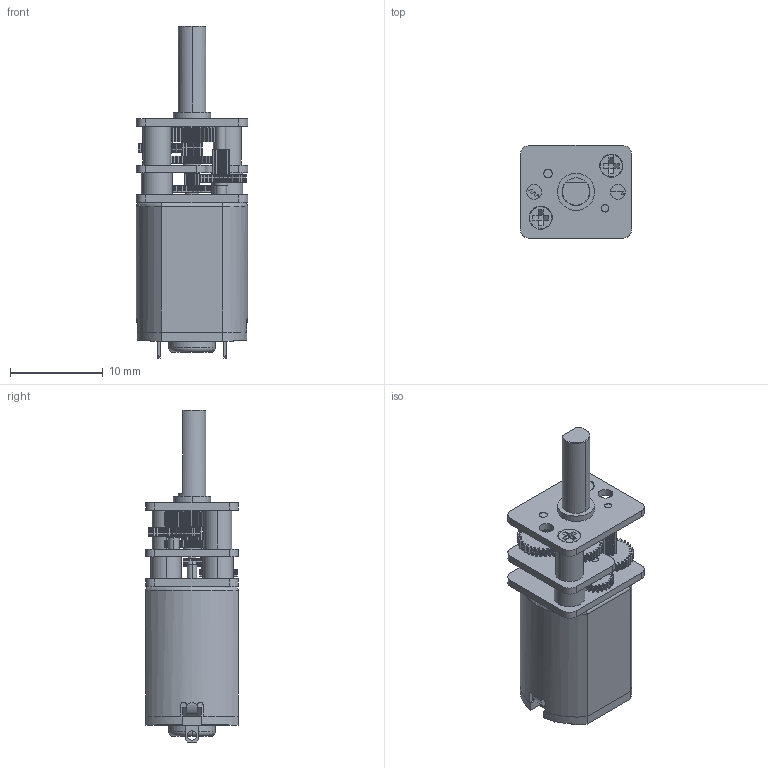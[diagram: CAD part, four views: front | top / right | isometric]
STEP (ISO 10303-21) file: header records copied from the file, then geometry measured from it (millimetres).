
FILE_DESCRIPTION (( 'STEP AP214' ), '1' );
FILE_NAME ('mmgm-logo-step.STEP', '2024-04-19T23:38:04', ( '' ), ( '' ), 'SwSTEP 2.0', 'SolidWorks 2023', '' );
FILE_SCHEMA (( 'AUTOMOTIVE_DESIGN' ));
Length unit declared in the file: inch
Products named in the file (1): mmgm-logo-step
Bounding box: 12 x 10 x 35.8 mm (x, y, z)
Volume: 2117.9 mm3; surface area: 2187.9 mm2
Topology: 1 solids, 3 shells, 2284 faces, 6868 edges, 4650 vertices
Faces by surface type: cylinder 1226, plane 740, bspline 301, torus 11, cone 6
Entity records: 123679 total; most frequent: CARTESIAN_POINT 40729, ORIENTED_EDGE 13736, DIRECTION 7348, EDGE_CURVE 6868, VERTEX_POINT 4650, B_SPLINE_CURVE_WITH_KNOTS 4407, AXIS2_PLACEMENT_3D 2915, EDGE_LOOP 2386
